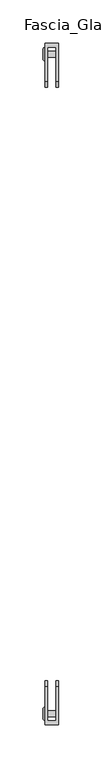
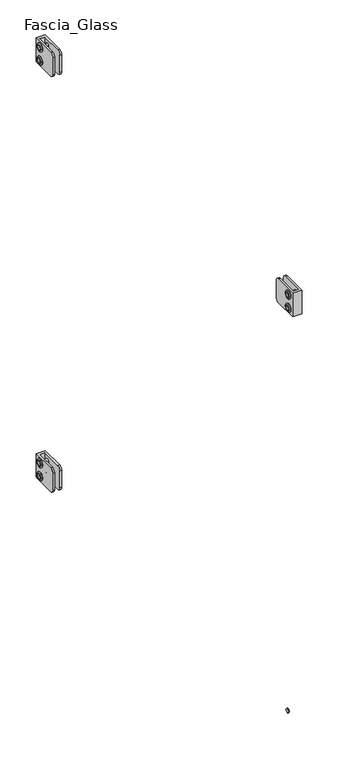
"""IFC4 building model written with IfcOpenShell, lengths in millimetres: railing geometry, Baluster-Excess-Fill-Straight-Panel-VIVA : Fascia_Glass."""

from ifc_helpers import new_model, si_unit, point, frame, origin, place, context, project, spatial, polyline, circle_curve, ellipse_curve, trimmed, outline, extrude, source, transform, mapped, element, save
from ifc_brep_helpers import plane_surface, cylinder_surface, revolved_surface, advanced_brep


def fascia_glass_776a08c6(model_context):
    return source(origin(), model_context, "Body", "SolidModel", [
        extrude(outline(polyline([(17.3185433, 917.178125), (15.2715791, 913.6326791), (11.1776508, 913.6326791), (9.1306867, 917.178125), (11.1776508, 920.7235709), (15.2715791, 920.7235709), (17.3185433, 917.178125)])), frame((21.7024185, 0.0, 0.0), z_axis=(1.0, 0.0, 0.0), x_axis=(0.0, 1.0, 0.0)), (0.0, 0.0, 1.0), 1.4969696),
        advanced_brep(
        [(36.7665, 16.7700609, 917.178125), (36.7665, 9.6791691, 917.178125), (24.0665, 9.6791691, 917.178125), (24.0665, 16.7700609, 917.178125), (24.0665, 5.8168259, 917.178125), (24.0665, 20.6324041, 917.178125), (23.199388, 14.8806904, 917.178125), (23.199388, 11.5685396, 917.178125), (36.7665, 11.5685396, 917.178125), (36.7665, 14.8806904, 917.178125), (23.2316551, 20.6324041, 917.178125), (23.2316551, 5.8168259, 917.178125), (21.9503831, 7.0980979, 917.178125), (21.9503831, 19.351132, 917.178125), (21.9503831, 8.9260194, 917.178125), (21.9503831, 17.5232105, 917.178125), (23.199388, 8.9260194, 917.178125), (23.199388, 17.5232105, 917.178125)],
        [
            (0, 1, circle_curve(frame((36.7665, 13.224615, 917.178125), z_axis=(-1.0, 0.0, 0.0), x_axis=(0.0, -1.0, 0.0)), 3.5454459)),
            (1, 2),
            (2, 3, circle_curve(frame((24.0665, 13.224615, 917.178125), z_axis=(1.0, 0.0, 0.0), x_axis=(0.0, -1.0, 0.0)), 3.5454459)),
            (3, 0),
            (1, 0, circle_curve(frame((36.7665, 13.224615, 917.178125), z_axis=(-1.0, 0.0, 0.0), x_axis=(0.0, -1.0, 0.0)), 3.5454459)),
            (3, 2, circle_curve(frame((24.0665, 13.224615, 917.178125), z_axis=(1.0, 0.0, 0.0), x_axis=(0.0, -1.0, 0.0)), 3.5454459)),
            (2, 4),
            (4, 5, circle_curve(frame((24.0665, 13.224615, 917.178125), z_axis=(1.0, 0.0, 0.0), x_axis=(0.0, -1.0, 0.0)), 7.4077891)),
            (5, 3),
            (5, 4, circle_curve(frame((24.0665, 13.224615, 917.178125), z_axis=(1.0, 0.0, 0.0), x_axis=(0.0, -1.0, 0.0)), 7.4077891)),
            (6, 7, circle_curve(frame((23.199388, 13.224615, 917.178125), z_axis=(-1.0, 0.0, 0.0), x_axis=(0.0, -1.0, 0.0)), 1.6560754)),
            (7, 8),
            (8, 9, circle_curve(frame((36.7665, 13.224615, 917.178125), z_axis=(1.0, 0.0, 0.0), x_axis=(0.0, -1.0, 0.0)), 1.6560754)),
            (9, 6),
            (7, 6, circle_curve(frame((23.199388, 13.224615, 917.178125), z_axis=(-1.0, 0.0, 0.0), x_axis=(0.0, -1.0, 0.0)), 1.6560754)),
            (9, 8, circle_curve(frame((36.7665, 13.224615, 917.178125), z_axis=(1.0, 0.0, 0.0), x_axis=(0.0, -1.0, 0.0)), 1.6560754)),
            (10, 11, circle_curve(frame((23.2316551, 13.224615, 917.178125), z_axis=(-1.0, 0.0, 0.0), x_axis=(0.0, -1.0, 0.0)), 7.4077891)),
            (11, 12, circle_curve(frame((23.2316551, 7.0980979, 917.178125), z_axis=(0.0, 0.0, -1.0), x_axis=(0.0, -1.0, 0.0)), 1.281272)),
            (12, 13, circle_curve(frame((21.9503831, 13.224615, 917.178125), z_axis=(1.0, 0.0, 0.0), x_axis=(0.0, -1.0, 0.0)), 6.1265171)),
            (13, 10, circle_curve(frame((23.2316551, 19.351132, 917.178125), z_axis=(0.0, 0.0, -1.0), x_axis=(0.0, 1.0, 0.0)), 1.281272)),
            (11, 10, circle_curve(frame((23.2316551, 13.224615, 917.178125), z_axis=(-1.0, 0.0, 0.0), x_axis=(0.0, -1.0, 0.0)), 7.4077891)),
            (13, 12, circle_curve(frame((21.9503831, 13.224615, 917.178125), z_axis=(1.0, 0.0, 0.0), x_axis=(0.0, -1.0, 0.0)), 6.1265171)),
            (12, 14),
            (14, 15, circle_curve(frame((21.9503831, 13.224615, 917.178125), z_axis=(1.0, 0.0, 0.0), x_axis=(0.0, -1.0, 0.0)), 4.2985955)),
            (15, 13),
            (15, 14, circle_curve(frame((21.9503831, 13.224615, 917.178125), z_axis=(1.0, 0.0, 0.0), x_axis=(0.0, -1.0, 0.0)), 4.2985955)),
            (4, 11),
            (10, 5),
            (8, 1),
            (0, 9),
            (14, 16),
            (16, 17, circle_curve(frame((23.199388, 13.224615, 917.178125), z_axis=(1.0, 0.0, 0.0), x_axis=(0.0, -1.0, 0.0)), 4.2985955)),
            (17, 15),
            (17, 16, circle_curve(frame((23.199388, 13.224615, 917.178125), z_axis=(1.0, 0.0, 0.0), x_axis=(0.0, -1.0, 0.0)), 4.2985955)),
            (16, 7),
            (6, 17),
        ],
        [
            cylinder_surface(frame((27.5632331, 13.224615, 917.178125), z_axis=(1.0, 0.0, 0.0), x_axis=(0.0, -1.0, 0.0)), 3.5454459),
            plane_surface(frame((24.0665, 13.224615, 917.178125), z_axis=(1.0, 0.0, 0.0), x_axis=(0.0, -1.0, 0.0))),
            revolved_surface(polyline([(36.7665, 11.5685396, 917.178125), (23.199388, 11.5685396, 917.178125)]), (27.5632331, 13.224615, 917.178125), (1.0, 0.0, 0.0)),
            revolved_surface(trimmed(ellipse_curve(frame((23.2316551, 7.0980979, 917.178125), z_axis=(0.0, 0.0, 1.0), x_axis=(0.0, -1.0, 0.0)), 1.281272, 1.281272), [point((21.9503831, 7.0980979, 917.178125))], [point((23.2316551, 5.8168259, 917.178125))], True, "CARTESIAN"), (27.5632331, 13.224615, 917.178125), (1.0, 0.0, 0.0)),
            plane_surface(frame((21.9503831, 13.224615, 917.178125), z_axis=(-1.0, 0.0, 0.0), x_axis=(0.0, -1.0, 0.0))),
            cylinder_surface(frame((27.5632331, 13.224615, 917.178125), z_axis=(1.0, 0.0, 0.0), x_axis=(0.0, -1.0, 0.0)), 7.4077891),
            plane_surface(frame((36.7665, 13.224615, 917.178125), z_axis=(1.0, 0.0, 0.0), x_axis=(0.0, -1.0, 0.0))),
            revolved_surface(polyline([(23.199388, 8.926019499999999, 917.178125), (21.9503831, 8.926019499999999, 917.178125)]), (27.5632331, 13.224615, 917.178125), (1.0, 0.0, 0.0)),
            plane_surface(frame((23.199388, 13.224615, 917.178125), z_axis=(-1.0, 0.0, 0.0), x_axis=(0.0, -1.0, 0.0))),
        ],
        [
            (0, [[1, 2, 3, 4]]),
            (0, [[5, -4, 6, -2]]),
            (1, [[-3, 7, 8, 9]]),
            (1, [[-6, -9, 10, -7]]),
            (2, [[11, 12, 13, 14]]),
            (2, [[15, -14, 16, -12]]),
            (3, [[17, 18, 19, 20]]),
            (3, [[21, -20, 22, -18]]),
            (4, [[-19, 23, 24, 25]]),
            (4, [[-22, -25, 26, -23]]),
            (5, [[-8, 27, -17, 28]]),
            (5, [[-10, -28, -21, -27]]),
            (6, [[-13, 29, -1, 30]]),
            (6, [[-16, -30, -5, -29]]),
            (7, [[-24, 31, 32, 33]]),
            (7, [[-26, -33, 34, -31]]),
            (8, [[-32, 35, -11, 36]]),
            (8, [[-34, -36, -15, -35]]),
        ],
    ),
        advanced_brep(
        [(36.7665, 16.7700609, 892.571875), (36.7665, 9.6791691, 892.571875), (24.0665, 9.6791691, 892.571875), (24.0665, 16.7700609, 892.571875), (24.0665, 5.8168259, 892.571875), (24.0665, 20.6324041, 892.571875), (23.199388, 14.8806904, 892.571875), (23.199388, 11.5685396, 892.571875), (36.7665, 11.5685396, 892.571875), (36.7665, 14.8806904, 892.571875), (23.2316551, 20.6324041, 892.571875), (23.2316551, 5.8168259, 892.571875), (21.9503831, 7.0980979, 892.571875), (21.9503831, 19.351132, 892.571875), (21.9503831, 8.9260194, 892.571875), (21.9503831, 17.5232105, 892.571875), (23.199388, 8.9260194, 892.571875), (23.199388, 17.5232105, 892.571875)],
        [
            (0, 1, circle_curve(frame((36.7665, 13.224615, 892.571875), z_axis=(-1.0, 0.0, 0.0), x_axis=(0.0, -1.0, 0.0)), 3.5454459)),
            (1, 2),
            (2, 3, circle_curve(frame((24.0665, 13.224615, 892.571875), z_axis=(1.0, 0.0, 0.0), x_axis=(0.0, -1.0, 0.0)), 3.5454459)),
            (3, 0),
            (1, 0, circle_curve(frame((36.7665, 13.224615, 892.571875), z_axis=(-1.0, 0.0, 0.0), x_axis=(0.0, -1.0, 0.0)), 3.5454459)),
            (3, 2, circle_curve(frame((24.0665, 13.224615, 892.571875), z_axis=(1.0, 0.0, 0.0), x_axis=(0.0, -1.0, 0.0)), 3.5454459)),
            (2, 4),
            (4, 5, circle_curve(frame((24.0665, 13.224615, 892.571875), z_axis=(1.0, 0.0, 0.0), x_axis=(0.0, -1.0, 0.0)), 7.4077891)),
            (5, 3),
            (5, 4, circle_curve(frame((24.0665, 13.224615, 892.571875), z_axis=(1.0, 0.0, 0.0), x_axis=(0.0, -1.0, 0.0)), 7.4077891)),
            (6, 7, circle_curve(frame((23.199388, 13.224615, 892.571875), z_axis=(-1.0, 0.0, 0.0), x_axis=(0.0, -1.0, 0.0)), 1.6560754)),
            (7, 8),
            (8, 9, circle_curve(frame((36.7665, 13.224615, 892.571875), z_axis=(1.0, 0.0, 0.0), x_axis=(0.0, -1.0, 0.0)), 1.6560754)),
            (9, 6),
            (7, 6, circle_curve(frame((23.199388, 13.224615, 892.571875), z_axis=(-1.0, 0.0, 0.0), x_axis=(0.0, -1.0, 0.0)), 1.6560754)),
            (9, 8, circle_curve(frame((36.7665, 13.224615, 892.571875), z_axis=(1.0, 0.0, 0.0), x_axis=(0.0, -1.0, 0.0)), 1.6560754)),
            (10, 11, circle_curve(frame((23.2316551, 13.224615, 892.571875), z_axis=(-1.0, 0.0, 0.0), x_axis=(0.0, -1.0, 0.0)), 7.4077891)),
            (11, 12, circle_curve(frame((23.2316551, 7.0980979, 892.571875), z_axis=(0.0, 0.0, -1.0), x_axis=(0.0, -1.0, 0.0)), 1.281272)),
            (12, 13, circle_curve(frame((21.9503831, 13.224615, 892.571875), z_axis=(1.0, 0.0, 0.0), x_axis=(0.0, -1.0, 0.0)), 6.1265171)),
            (13, 10, circle_curve(frame((23.2316551, 19.351132, 892.571875), z_axis=(0.0, 0.0, -1.0), x_axis=(0.0, 1.0, 0.0)), 1.281272)),
            (11, 10, circle_curve(frame((23.2316551, 13.224615, 892.571875), z_axis=(-1.0, 0.0, 0.0), x_axis=(0.0, -1.0, 0.0)), 7.4077891)),
            (13, 12, circle_curve(frame((21.9503831, 13.224615, 892.571875), z_axis=(1.0, 0.0, 0.0), x_axis=(0.0, -1.0, 0.0)), 6.1265171)),
            (12, 14),
            (14, 15, circle_curve(frame((21.9503831, 13.224615, 892.571875), z_axis=(1.0, 0.0, 0.0), x_axis=(0.0, -1.0, 0.0)), 4.2985955)),
            (15, 13),
            (15, 14, circle_curve(frame((21.9503831, 13.224615, 892.571875), z_axis=(1.0, 0.0, 0.0), x_axis=(0.0, -1.0, 0.0)), 4.2985955)),
            (8, 1),
            (0, 9),
            (4, 11),
            (10, 5),
            (14, 16),
            (16, 17, circle_curve(frame((23.199388, 13.224615, 892.571875), z_axis=(1.0, 0.0, 0.0), x_axis=(0.0, -1.0, 0.0)), 4.2985955)),
            (17, 15),
            (17, 16, circle_curve(frame((23.199388, 13.224615, 892.571875), z_axis=(1.0, 0.0, 0.0), x_axis=(0.0, -1.0, 0.0)), 4.2985955)),
            (16, 7),
            (6, 17),
        ],
        [
            cylinder_surface(frame((27.5632331, 13.224615, 892.571875), z_axis=(1.0, 0.0, 0.0), x_axis=(0.0, -1.0, 0.0)), 3.5454459),
            plane_surface(frame((24.0665, 13.224615, 892.571875), z_axis=(1.0, 0.0, 0.0), x_axis=(0.0, -1.0, 0.0))),
            revolved_surface(polyline([(36.7665, 11.5685396, 892.571875), (23.199388, 11.5685396, 892.571875)]), (27.5632331, 13.224615, 892.571875), (1.0, 0.0, 0.0)),
            revolved_surface(trimmed(ellipse_curve(frame((23.2316551, 7.0980979, 892.571875), z_axis=(0.0, 0.0, 1.0), x_axis=(0.0, -1.0, 0.0)), 1.281272, 1.281272), [point((21.9503831, 7.0980979, 892.571875))], [point((23.2316551, 5.8168259, 892.571875))], True, "CARTESIAN"), (27.5632331, 13.224615, 892.571875), (1.0, 0.0, 0.0)),
            plane_surface(frame((21.9503831, 13.224615, 892.571875), z_axis=(-1.0, 0.0, 0.0), x_axis=(0.0, -1.0, 0.0))),
            plane_surface(frame((36.7665, 13.224615, 892.571875), z_axis=(1.0, 0.0, 0.0), x_axis=(0.0, -1.0, 0.0))),
            cylinder_surface(frame((27.5632331, 13.224615, 892.571875), z_axis=(1.0, 0.0, 0.0), x_axis=(0.0, -1.0, 0.0)), 7.4077891),
            revolved_surface(polyline([(23.199388, 8.926019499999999, 892.571875), (21.9503831, 8.926019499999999, 892.571875)]), (27.5632331, 13.224615, 892.571875), (1.0, 0.0, 0.0)),
            plane_surface(frame((23.199388, 13.224615, 892.571875), z_axis=(-1.0, 0.0, 0.0), x_axis=(0.0, -1.0, 0.0))),
        ],
        [
            (0, [[1, 2, 3, 4]]),
            (0, [[5, -4, 6, -2]]),
            (1, [[-3, 7, 8, 9]]),
            (1, [[-6, -9, 10, -7]]),
            (2, [[11, 12, 13, 14]]),
            (2, [[15, -14, 16, -12]]),
            (3, [[17, 18, 19, 20]]),
            (3, [[21, -20, 22, -18]]),
            (4, [[-19, 23, 24, 25]]),
            (4, [[-22, -25, 26, -23]]),
            (5, [[-13, 27, -1, 28]]),
            (5, [[-16, -28, -5, -27]]),
            (6, [[-8, 29, -17, 30]]),
            (6, [[-10, -30, -21, -29]]),
            (7, [[-24, 31, 32, 33]]),
            (7, [[-26, -33, 34, -31]]),
            (8, [[-32, 35, -11, 36]]),
            (8, [[-34, -36, -15, -35]]),
        ],
    ),
        extrude(outline(polyline([(17.3185433, 892.571875), (15.2715791, 889.0264291), (11.1776508, 889.0264291), (9.1306867, 892.571875), (11.1776508, 896.1173209), (15.2715791, 896.1173209), (17.3185433, 892.571875)])), frame((21.7024185, 0.0, 0.0), z_axis=(1.0, 0.0, 0.0), x_axis=(0.0, 1.0, 0.0)), (0.0, 0.0, 1.0), 1.4969696),
        advanced_brep(
        [(24.0665, 25.8579597, 927.1), (24.0665, 25.8579597, 882.65), (24.0665, -18.5920403, 882.65), (24.0665, -24.9420403, 889.0), (24.0665, -24.9420403, 920.75), (24.0665, -18.5920403, 927.1), (39.9415, 25.8579597, 927.1), (39.9415, -18.5920403, 927.1), (39.9415, -24.9420403, 920.75), (39.9415, -24.9420403, 889.0), (39.9415, -18.5920403, 882.65), (39.9415, 25.8579597, 882.65), (36.7665, -18.5920403, 882.65), (36.7665, 21.1398793, 882.65), (27.2415, 21.1398793, 882.65), (27.2415, -18.5920403, 882.65), (36.7665, 21.1398793, 927.1), (27.2415, 21.1398793, 927.1), (27.2415, -18.5920403, 927.1), (27.2415, -24.9420403, 920.75), (27.2415, -24.9420403, 889.0), (36.7665, -24.9420403, 889.0), (36.7665, -24.9420403, 920.75), (36.7665, -18.5920403, 927.1)],
        [
            (0, 1),
            (1, 2),
            (2, 3, circle_curve(frame((24.0665, -18.5920403, 889.0), z_axis=(-1.0, 0.0, 0.0), x_axis=(0.0, -1.0, 0.0)), 6.35)),
            (3, 4),
            (4, 5, circle_curve(frame((24.0665, -18.5920403, 920.75), z_axis=(-1.0, 0.0, 0.0), x_axis=(0.0, -1.0, 0.0)), 6.35)),
            (5, 0),
            (6, 7),
            (7, 8, circle_curve(frame((39.9415, -18.5920403, 920.75), z_axis=(1.0, 0.0, 0.0), x_axis=(0.0, -1.0, 0.0)), 6.35)),
            (8, 9),
            (9, 10, circle_curve(frame((39.9415, -18.5920403, 889.0), z_axis=(1.0, 0.0, 0.0), x_axis=(0.0, -1.0, 0.0)), 6.35)),
            (10, 11),
            (11, 6),
            (0, 6),
            (11, 1),
            (10, 12),
            (12, 13),
            (13, 14),
            (14, 15),
            (15, 2),
            (13, 16),
            (16, 17),
            (17, 14),
            (17, 18),
            (18, 19, circle_curve(frame((27.2415, -18.5920403, 920.75), z_axis=(1.0, 0.0, 0.0), x_axis=(0.0, -1.0, 0.0)), 6.35)),
            (19, 20),
            (20, 15, circle_curve(frame((27.2415, -18.5920403, 889.0), z_axis=(1.0, 0.0, 0.0), x_axis=(0.0, -1.0, 0.0)), 6.35)),
            (12, 21, circle_curve(frame((36.7665, -18.5920403, 889.0), z_axis=(-1.0, 0.0, 0.0), x_axis=(0.0, -1.0, 0.0)), 6.35)),
            (21, 22),
            (22, 23, circle_curve(frame((36.7665, -18.5920403, 920.75), z_axis=(-1.0, 0.0, 0.0), x_axis=(0.0, -1.0, 0.0)), 6.35)),
            (23, 16),
            (20, 3),
            (9, 21),
            (19, 4),
            (8, 22),
            (18, 5),
            (7, 23),
        ],
        [
            plane_surface(frame((24.0665, 25.8579597, 882.65), z_axis=(-1.0, 0.0, 0.0), x_axis=(0.0, 0.0, -1.0))),
            plane_surface(frame((39.9415, 25.8579597, 882.65), z_axis=(1.0, 0.0, 0.0), x_axis=(0.0, 0.0, 1.0))),
            plane_surface(frame((24.0665, 25.8579597, 927.1), z_axis=(0.0, 1.0, 0.0), x_axis=(1.0, 0.0, 0.0))),
            plane_surface(frame((24.0665, 25.8579597, 882.65), z_axis=(0.0, 0.0, -1.0), x_axis=(1.0, 0.0, 0.0))),
            plane_surface(frame((36.7665, 21.1398793, 939.8), z_axis=(0.0, -1.0, 0.0), x_axis=(0.0, 0.0, -1.0))),
            plane_surface(frame((27.2415, 21.1398793, 939.8), z_axis=(1.0, 0.0, 0.0), x_axis=(0.0, 0.0, -1.0))),
            plane_surface(frame((36.7665, -37.6420403, 939.8), z_axis=(-1.0, 0.0, 0.0), x_axis=(0.0, 0.0, -1.0))),
            cylinder_surface(frame((39.9415, -18.5920403, 889.0), z_axis=(-1.0, 0.0, 0.0), x_axis=(0.0, -1.0, 0.0)), 6.35),
            plane_surface(frame((24.0665, -24.9420403, 889.0), z_axis=(0.0, -1.0, 0.0), x_axis=(1.0, 0.0, 0.0))),
            cylinder_surface(frame((39.9415, -18.5920403, 920.75), z_axis=(-1.0, 0.0, 0.0), x_axis=(0.0, -1.0, 0.0)), 6.35),
            plane_surface(frame((24.0665, -18.5920403, 927.1), z_axis=(0.0, 0.0, 1.0), x_axis=(1.0, 0.0, 0.0))),
        ],
        [
            (0, [[1, 2, 3, 4, 5, 6]]),
            (1, [[7, 8, 9, 10, 11, 12]]),
            (2, [[-1, 13, -12, 14]]),
            (3, [[-2, -14, -11, 15, 16, 17, 18, 19]]),
            (4, [[20, 21, 22, -17]]),
            (5, [[-22, 23, 24, 25, 26, -18]]),
            (6, [[-20, -16, 27, 28, 29, 30]]),
            (7, [[-3, -19, -26, 31]]),
            (7, [[-10, 32, -27, -15]]),
            (8, [[-4, -31, -25, 33]]),
            (8, [[-9, 34, -28, -32]]),
            (9, [[-5, -33, -24, 35]]),
            (9, [[-8, 36, -29, -34]]),
            (10, [[-6, -35, -23, -21, -30, -36, -7, -13]]),
        ],
    ),
        extrude(outline(polyline([(17.3185433, 138.7358896), (15.2715791, 135.1904437), (11.1776508, 135.1904437), (9.1306867, 138.7358896), (11.1776508, 142.2813355), (15.2715791, 142.2813355), (17.3185433, 138.7358896)])), frame((21.7024185, 0.0, 0.0), z_axis=(1.0, 0.0, 0.0), x_axis=(0.0, 1.0, 0.0)), (0.0, 0.0, 1.0), 1.4969696),
        advanced_brep(
        [(36.7665, 16.7700609, 138.7358896), (36.7665, 9.6791691, 138.7358896), (24.0665, 9.6791691, 138.7358896), (24.0665, 16.7700609, 138.7358896), (24.0665, 5.8168259, 138.7358896), (24.0665, 20.6324041, 138.7358896), (23.199388, 14.8806904, 138.7358896), (23.199388, 11.5685396, 138.7358896), (36.7665, 11.5685396, 138.7358896), (36.7665, 14.8806904, 138.7358896), (23.2316551, 20.6324041, 138.7358896), (23.2316551, 5.8168259, 138.7358896), (21.9503831, 7.0980979, 138.7358896), (21.9503831, 19.351132, 138.7358896), (21.9503831, 8.9260194, 138.7358896), (21.9503831, 17.5232105, 138.7358896), (23.199388, 8.9260194, 138.7358896), (23.199388, 17.5232105, 138.7358896)],
        [
            (0, 1, circle_curve(frame((36.7665, 13.224615, 138.7358896), z_axis=(-1.0, 0.0, 0.0), x_axis=(0.0, -1.0, 0.0)), 3.5454459)),
            (1, 2),
            (2, 3, circle_curve(frame((24.0665, 13.224615, 138.7358896), z_axis=(1.0, 0.0, 0.0), x_axis=(0.0, -1.0, 0.0)), 3.5454459)),
            (3, 0),
            (1, 0, circle_curve(frame((36.7665, 13.224615, 138.7358896), z_axis=(-1.0, 0.0, 0.0), x_axis=(0.0, -1.0, 0.0)), 3.5454459)),
            (3, 2, circle_curve(frame((24.0665, 13.224615, 138.7358896), z_axis=(1.0, 0.0, 0.0), x_axis=(0.0, -1.0, 0.0)), 3.5454459)),
            (2, 4),
            (4, 5, circle_curve(frame((24.0665, 13.224615, 138.7358896), z_axis=(1.0, 0.0, 0.0), x_axis=(0.0, -1.0, 0.0)), 7.4077891)),
            (5, 3),
            (5, 4, circle_curve(frame((24.0665, 13.224615, 138.7358896), z_axis=(1.0, 0.0, 0.0), x_axis=(0.0, -1.0, 0.0)), 7.4077891)),
            (6, 7, circle_curve(frame((23.199388, 13.224615, 138.7358896), z_axis=(-1.0, 0.0, 0.0), x_axis=(0.0, -1.0, 0.0)), 1.6560754)),
            (7, 8),
            (8, 9, circle_curve(frame((36.7665, 13.224615, 138.7358896), z_axis=(1.0, 0.0, 0.0), x_axis=(0.0, -1.0, 0.0)), 1.6560754)),
            (9, 6),
            (7, 6, circle_curve(frame((23.199388, 13.224615, 138.7358896), z_axis=(-1.0, 0.0, 0.0), x_axis=(0.0, -1.0, 0.0)), 1.6560754)),
            (9, 8, circle_curve(frame((36.7665, 13.224615, 138.7358896), z_axis=(1.0, 0.0, 0.0), x_axis=(0.0, -1.0, 0.0)), 1.6560754)),
            (10, 11, circle_curve(frame((23.2316551, 13.224615, 138.7358896), z_axis=(-1.0, 0.0, 0.0), x_axis=(0.0, -1.0, 0.0)), 7.4077891)),
            (11, 12, circle_curve(frame((23.2316551, 7.0980979, 138.7358896), z_axis=(0.0, 0.0, -1.0), x_axis=(0.0, -1.0, 0.0)), 1.281272)),
            (12, 13, circle_curve(frame((21.9503831, 13.224615, 138.7358896), z_axis=(1.0, 0.0, 0.0), x_axis=(0.0, -1.0, 0.0)), 6.1265171)),
            (13, 10, circle_curve(frame((23.2316551, 19.351132, 138.7358896), z_axis=(0.0, 0.0, -1.0), x_axis=(0.0, 1.0, 0.0)), 1.281272)),
            (11, 10, circle_curve(frame((23.2316551, 13.224615, 138.7358896), z_axis=(-1.0, 0.0, 0.0), x_axis=(0.0, -1.0, 0.0)), 7.4077891)),
            (13, 12, circle_curve(frame((21.9503831, 13.224615, 138.7358896), z_axis=(1.0, 0.0, 0.0), x_axis=(0.0, -1.0, 0.0)), 6.1265171)),
            (12, 14),
            (14, 15, circle_curve(frame((21.9503831, 13.224615, 138.7358896), z_axis=(1.0, 0.0, 0.0), x_axis=(0.0, -1.0, 0.0)), 4.2985955)),
            (15, 13),
            (15, 14, circle_curve(frame((21.9503831, 13.224615, 138.7358896), z_axis=(1.0, 0.0, 0.0), x_axis=(0.0, -1.0, 0.0)), 4.2985955)),
            (4, 11),
            (10, 5),
            (8, 1),
            (0, 9),
            (14, 16),
            (16, 17, circle_curve(frame((23.199388, 13.224615, 138.7358896), z_axis=(1.0, 0.0, 0.0), x_axis=(0.0, -1.0, 0.0)), 4.2985955)),
            (17, 15),
            (17, 16, circle_curve(frame((23.199388, 13.224615, 138.7358896), z_axis=(1.0, 0.0, 0.0), x_axis=(0.0, -1.0, 0.0)), 4.2985955)),
            (16, 7),
            (6, 17),
        ],
        [
            cylinder_surface(frame((27.5632331, 13.224615, 138.7358896), z_axis=(1.0, 0.0, 0.0), x_axis=(0.0, -1.0, 0.0)), 3.5454459),
            plane_surface(frame((24.0665, 13.224615, 138.7358896), z_axis=(1.0, 0.0, 0.0), x_axis=(0.0, -1.0, 0.0))),
            revolved_surface(polyline([(36.7665, 11.5685396, 138.7358896), (23.199388, 11.5685396, 138.7358896)]), (27.5632331, 13.224615, 138.7358896), (1.0, 0.0, 0.0)),
            revolved_surface(trimmed(ellipse_curve(frame((23.2316551, 7.0980979, 138.7358896), z_axis=(0.0, 0.0, 1.0), x_axis=(0.0, -1.0, 0.0)), 1.281272, 1.281272), [point((21.9503831, 7.0980979, 138.7358896))], [point((23.2316551, 5.8168259, 138.7358896))], True, "CARTESIAN"), (27.5632331, 13.224615, 138.7358896), (1.0, 0.0, 0.0)),
            plane_surface(frame((21.9503831, 13.224615, 138.7358896), z_axis=(-1.0, 0.0, 0.0), x_axis=(0.0, -1.0, 0.0))),
            cylinder_surface(frame((27.5632331, 13.224615, 138.7358896), z_axis=(1.0, 0.0, 0.0), x_axis=(0.0, -1.0, 0.0)), 7.4077891),
            plane_surface(frame((36.7665, 13.224615, 138.7358896), z_axis=(1.0, 0.0, 0.0), x_axis=(0.0, -1.0, 0.0))),
            revolved_surface(polyline([(23.199388, 8.926019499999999, 138.7358896), (21.9503831, 8.926019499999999, 138.7358896)]), (27.5632331, 13.224615, 138.7358896), (1.0, 0.0, 0.0)),
            plane_surface(frame((23.199388, 13.224615, 138.7358896), z_axis=(-1.0, 0.0, 0.0), x_axis=(0.0, -1.0, 0.0))),
        ],
        [
            (0, [[1, 2, 3, 4]]),
            (0, [[5, -4, 6, -2]]),
            (1, [[-3, 7, 8, 9]]),
            (1, [[-6, -9, 10, -7]]),
            (2, [[11, 12, 13, 14]]),
            (2, [[15, -14, 16, -12]]),
            (3, [[17, 18, 19, 20]]),
            (3, [[21, -20, 22, -18]]),
            (4, [[-19, 23, 24, 25]]),
            (4, [[-22, -25, 26, -23]]),
            (5, [[-8, 27, -17, 28]]),
            (5, [[-10, -28, -21, -27]]),
            (6, [[-13, 29, -1, 30]]),
            (6, [[-16, -30, -5, -29]]),
            (7, [[-24, 31, 32, 33]]),
            (7, [[-26, -33, 34, -31]]),
            (8, [[-32, 35, -11, 36]]),
            (8, [[-34, -36, -15, -35]]),
        ],
    ),
        advanced_brep(
        [(36.7665, 16.7700609, 114.1296396), (36.7665, 9.6791691, 114.1296396), (24.0665, 9.6791691, 114.1296396), (24.0665, 16.7700609, 114.1296396), (24.0665, 5.8168259, 114.1296396), (24.0665, 20.6324041, 114.1296396), (23.199388, 14.8806904, 114.1296396), (23.199388, 11.5685396, 114.1296396), (36.7665, 11.5685396, 114.1296396), (36.7665, 14.8806904, 114.1296396), (23.2316551, 20.6324041, 114.1296396), (23.2316551, 5.8168259, 114.1296396), (21.9503831, 7.0980979, 114.1296396), (21.9503831, 19.351132, 114.1296396), (21.9503831, 8.9260194, 114.1296396), (21.9503831, 17.5232105, 114.1296396), (23.199388, 8.9260194, 114.1296396), (23.199388, 17.5232105, 114.1296396)],
        [
            (0, 1, circle_curve(frame((36.7665, 13.224615, 114.1296396), z_axis=(-1.0, 0.0, 0.0), x_axis=(0.0, -1.0, 0.0)), 3.5454459)),
            (1, 2),
            (2, 3, circle_curve(frame((24.0665, 13.224615, 114.1296396), z_axis=(1.0, 0.0, 0.0), x_axis=(0.0, -1.0, 0.0)), 3.5454459)),
            (3, 0),
            (1, 0, circle_curve(frame((36.7665, 13.224615, 114.1296396), z_axis=(-1.0, 0.0, 0.0), x_axis=(0.0, -1.0, 0.0)), 3.5454459)),
            (3, 2, circle_curve(frame((24.0665, 13.224615, 114.1296396), z_axis=(1.0, 0.0, 0.0), x_axis=(0.0, -1.0, 0.0)), 3.5454459)),
            (2, 4),
            (4, 5, circle_curve(frame((24.0665, 13.224615, 114.1296396), z_axis=(1.0, 0.0, 0.0), x_axis=(0.0, -1.0, 0.0)), 7.4077891)),
            (5, 3),
            (5, 4, circle_curve(frame((24.0665, 13.224615, 114.1296396), z_axis=(1.0, 0.0, 0.0), x_axis=(0.0, -1.0, 0.0)), 7.4077891)),
            (6, 7, circle_curve(frame((23.199388, 13.224615, 114.1296396), z_axis=(-1.0, 0.0, 0.0), x_axis=(0.0, -1.0, 0.0)), 1.6560754)),
            (7, 8),
            (8, 9, circle_curve(frame((36.7665, 13.224615, 114.1296396), z_axis=(1.0, 0.0, 0.0), x_axis=(0.0, -1.0, 0.0)), 1.6560754)),
            (9, 6),
            (7, 6, circle_curve(frame((23.199388, 13.224615, 114.1296396), z_axis=(-1.0, 0.0, 0.0), x_axis=(0.0, -1.0, 0.0)), 1.6560754)),
            (9, 8, circle_curve(frame((36.7665, 13.224615, 114.1296396), z_axis=(1.0, 0.0, 0.0), x_axis=(0.0, -1.0, 0.0)), 1.6560754)),
            (10, 11, circle_curve(frame((23.2316551, 13.224615, 114.1296396), z_axis=(-1.0, 0.0, 0.0), x_axis=(0.0, -1.0, 0.0)), 7.4077891)),
            (11, 12, circle_curve(frame((23.2316551, 7.0980979, 114.1296396), z_axis=(0.0, 0.0, -1.0), x_axis=(0.0, -1.0, 0.0)), 1.281272)),
            (12, 13, circle_curve(frame((21.9503831, 13.224615, 114.1296396), z_axis=(1.0, 0.0, 0.0), x_axis=(0.0, -1.0, 0.0)), 6.1265171)),
            (13, 10, circle_curve(frame((23.2316551, 19.351132, 114.1296396), z_axis=(0.0, 0.0, -1.0), x_axis=(0.0, 1.0, 0.0)), 1.281272)),
            (11, 10, circle_curve(frame((23.2316551, 13.224615, 114.1296396), z_axis=(-1.0, 0.0, 0.0), x_axis=(0.0, -1.0, 0.0)), 7.4077891)),
            (13, 12, circle_curve(frame((21.9503831, 13.224615, 114.1296396), z_axis=(1.0, 0.0, 0.0), x_axis=(0.0, -1.0, 0.0)), 6.1265171)),
            (12, 14),
            (14, 15, circle_curve(frame((21.9503831, 13.224615, 114.1296396), z_axis=(1.0, 0.0, 0.0), x_axis=(0.0, -1.0, 0.0)), 4.2985955)),
            (15, 13),
            (15, 14, circle_curve(frame((21.9503831, 13.224615, 114.1296396), z_axis=(1.0, 0.0, 0.0), x_axis=(0.0, -1.0, 0.0)), 4.2985955)),
            (8, 1),
            (0, 9),
            (4, 11),
            (10, 5),
            (14, 16),
            (16, 17, circle_curve(frame((23.199388, 13.224615, 114.1296396), z_axis=(1.0, 0.0, 0.0), x_axis=(0.0, -1.0, 0.0)), 4.2985955)),
            (17, 15),
            (17, 16, circle_curve(frame((23.199388, 13.224615, 114.1296396), z_axis=(1.0, 0.0, 0.0), x_axis=(0.0, -1.0, 0.0)), 4.2985955)),
            (16, 7),
            (6, 17),
        ],
        [
            cylinder_surface(frame((27.5632331, 13.224615, 114.1296396), z_axis=(1.0, 0.0, 0.0), x_axis=(0.0, -1.0, 0.0)), 3.5454459),
            plane_surface(frame((24.0665, 13.224615, 114.1296396), z_axis=(1.0, 0.0, 0.0), x_axis=(0.0, -1.0, 0.0))),
            revolved_surface(polyline([(36.7665, 11.5685396, 114.1296396), (23.199388, 11.5685396, 114.1296396)]), (27.5632331, 13.224615, 114.1296396), (1.0, 0.0, 0.0)),
            revolved_surface(trimmed(ellipse_curve(frame((23.2316551, 7.0980979, 114.1296396), z_axis=(0.0, 0.0, 1.0), x_axis=(0.0, -1.0, 0.0)), 1.281272, 1.281272), [point((21.9503831, 7.0980979, 114.1296396))], [point((23.2316551, 5.8168259, 114.1296396))], True, "CARTESIAN"), (27.5632331, 13.224615, 114.1296396), (1.0, 0.0, 0.0)),
            plane_surface(frame((21.9503831, 13.224615, 114.1296396), z_axis=(-1.0, 0.0, 0.0), x_axis=(0.0, -1.0, 0.0))),
            plane_surface(frame((36.7665, 13.224615, 114.1296396), z_axis=(1.0, 0.0, 0.0), x_axis=(0.0, -1.0, 0.0))),
            cylinder_surface(frame((27.5632331, 13.224615, 114.1296396), z_axis=(1.0, 0.0, 0.0), x_axis=(0.0, -1.0, 0.0)), 7.4077891),
            revolved_surface(polyline([(23.199388, 8.926019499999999, 114.1296396), (21.9503831, 8.926019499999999, 114.1296396)]), (27.5632331, 13.224615, 114.1296396), (1.0, 0.0, 0.0)),
            plane_surface(frame((23.199388, 13.224615, 114.1296396), z_axis=(-1.0, 0.0, 0.0), x_axis=(0.0, -1.0, 0.0))),
        ],
        [
            (0, [[1, 2, 3, 4]]),
            (0, [[5, -4, 6, -2]]),
            (1, [[-3, 7, 8, 9]]),
            (1, [[-6, -9, 10, -7]]),
            (2, [[11, 12, 13, 14]]),
            (2, [[15, -14, 16, -12]]),
            (3, [[17, 18, 19, 20]]),
            (3, [[21, -20, 22, -18]]),
            (4, [[-19, 23, 24, 25]]),
            (4, [[-22, -25, 26, -23]]),
            (5, [[-13, 27, -1, 28]]),
            (5, [[-16, -28, -5, -27]]),
            (6, [[-8, 29, -17, 30]]),
            (6, [[-10, -30, -21, -29]]),
            (7, [[-24, 31, 32, 33]]),
            (7, [[-26, -33, 34, -31]]),
            (8, [[-32, 35, -11, 36]]),
            (8, [[-34, -36, -15, -35]]),
        ],
    ),
        extrude(outline(polyline([(17.3185433, 114.1296396), (15.2715791, 110.5841937), (11.1776508, 110.5841937), (9.1306867, 114.1296396), (11.1776508, 117.6750855), (15.2715791, 117.6750855), (17.3185433, 114.1296396)])), frame((21.7024185, 0.0, 0.0), z_axis=(1.0, 0.0, 0.0), x_axis=(0.0, 1.0, 0.0)), (0.0, 0.0, 1.0), 1.4969696),
        advanced_brep(
        [(24.0665, 25.8579597, 148.6577646), (24.0665, 25.8579597, 104.2077646), (24.0665, -18.5920403, 104.2077646), (24.0665, -24.9420403, 110.5577646), (24.0665, -24.9420403, 142.3077646), (24.0665, -18.5920403, 148.6577646), (39.9415, 25.8579597, 148.6577646), (39.9415, -18.5920403, 148.6577646), (39.9415, -24.9420403, 142.3077646), (39.9415, -24.9420403, 110.5577646), (39.9415, -18.5920403, 104.2077646), (39.9415, 25.8579597, 104.2077646), (36.7665, -18.5920403, 104.2077646), (36.7665, 21.1398793, 104.2077646), (27.2415, 21.1398793, 104.2077646), (27.2415, -18.5920403, 104.2077646), (36.7665, 21.1398793, 148.6577646), (27.2415, 21.1398793, 148.6577646), (27.2415, -18.5920403, 148.6577646), (27.2415, -24.9420403, 142.3077646), (27.2415, -24.9420403, 110.5577646), (36.7665, -24.9420403, 110.5577646), (36.7665, -24.9420403, 142.3077646), (36.7665, -18.5920403, 148.6577646)],
        [
            (0, 1),
            (1, 2),
            (2, 3, circle_curve(frame((24.0665, -18.5920403, 110.5577646), z_axis=(-1.0, 0.0, 0.0), x_axis=(0.0, -1.0, 0.0)), 6.35)),
            (3, 4),
            (4, 5, circle_curve(frame((24.0665, -18.5920403, 142.3077646), z_axis=(-1.0, 0.0, 0.0), x_axis=(0.0, -1.0, 0.0)), 6.35)),
            (5, 0),
            (6, 7),
            (7, 8, circle_curve(frame((39.9415, -18.5920403, 142.3077646), z_axis=(1.0, 0.0, 0.0), x_axis=(0.0, -1.0, 0.0)), 6.35)),
            (8, 9),
            (9, 10, circle_curve(frame((39.9415, -18.5920403, 110.5577646), z_axis=(1.0, 0.0, 0.0), x_axis=(0.0, -1.0, 0.0)), 6.35)),
            (10, 11),
            (11, 6),
            (0, 6),
            (11, 1),
            (10, 12),
            (12, 13),
            (13, 14),
            (14, 15),
            (15, 2),
            (13, 16),
            (16, 17),
            (17, 14),
            (17, 18),
            (18, 19, circle_curve(frame((27.2415, -18.5920403, 142.3077646), z_axis=(1.0, 0.0, 0.0), x_axis=(0.0, -1.0, 0.0)), 6.35)),
            (19, 20),
            (20, 15, circle_curve(frame((27.2415, -18.5920403, 110.5577646), z_axis=(1.0, 0.0, 0.0), x_axis=(0.0, -1.0, 0.0)), 6.35)),
            (12, 21, circle_curve(frame((36.7665, -18.5920403, 110.5577646), z_axis=(-1.0, 0.0, 0.0), x_axis=(0.0, -1.0, 0.0)), 6.35)),
            (21, 22),
            (22, 23, circle_curve(frame((36.7665, -18.5920403, 142.3077646), z_axis=(-1.0, 0.0, 0.0), x_axis=(0.0, -1.0, 0.0)), 6.35)),
            (23, 16),
            (20, 3),
            (9, 21),
            (19, 4),
            (8, 22),
            (18, 5),
            (7, 23),
        ],
        [
            plane_surface(frame((24.0665, 25.8579597, 104.2077646), z_axis=(-1.0, 0.0, 0.0), x_axis=(0.0, 0.0, -1.0))),
            plane_surface(frame((39.9415, 25.8579597, 104.2077646), z_axis=(1.0, 0.0, 0.0), x_axis=(0.0, 0.0, 1.0))),
            plane_surface(frame((24.0665, 25.8579597, 148.6577646), z_axis=(0.0, 1.0, 0.0), x_axis=(1.0, 0.0, 0.0))),
            plane_surface(frame((24.0665, 25.8579597, 104.2077646), z_axis=(0.0, 0.0, -1.0), x_axis=(1.0, 0.0, 0.0))),
            plane_surface(frame((36.7665, 21.1398793, 161.3577646), z_axis=(0.0, -1.0, 0.0), x_axis=(0.0, 0.0, -1.0))),
            plane_surface(frame((27.2415, 21.1398793, 161.3577646), z_axis=(1.0, 0.0, 0.0), x_axis=(0.0, 0.0, -1.0))),
            plane_surface(frame((36.7665, -37.6420403, 161.3577646), z_axis=(-1.0, 0.0, 0.0), x_axis=(0.0, 0.0, -1.0))),
            cylinder_surface(frame((39.9415, -18.5920403, 110.5577646), z_axis=(-1.0, 0.0, 0.0), x_axis=(0.0, -1.0, 0.0)), 6.35),
            plane_surface(frame((24.0665, -24.9420403, 110.5577646), z_axis=(0.0, -1.0, 0.0), x_axis=(1.0, 0.0, 0.0))),
            cylinder_surface(frame((39.9415, -18.5920403, 142.3077646), z_axis=(-1.0, 0.0, 0.0), x_axis=(0.0, -1.0, 0.0)), 6.35),
            plane_surface(frame((24.0665, -18.5920403, 148.6577646), z_axis=(0.0, 0.0, 1.0), x_axis=(1.0, 0.0, 0.0))),
        ],
        [
            (0, [[1, 2, 3, 4, 5, 6]]),
            (1, [[7, 8, 9, 10, 11, 12]]),
            (2, [[-1, 13, -12, 14]]),
            (3, [[-2, -14, -11, 15, 16, 17, 18, 19]]),
            (4, [[20, 21, 22, -17]]),
            (5, [[-22, 23, 24, 25, 26, -18]]),
            (6, [[-20, -16, 27, 28, 29, 30]]),
            (7, [[-3, -19, -26, 31]]),
            (7, [[-10, 32, -27, -15]]),
            (8, [[-4, -31, -25, 33]]),
            (8, [[-9, 34, -28, -32]]),
            (9, [[-5, -33, -24, 35]]),
            (9, [[-8, 36, -29, -34]]),
            (10, [[-6, -35, -23, -21, -30, -36, -7, -13]]),
        ],
    ),
        extrude(outline(polyline([(-754.1454232, 917.178125), (-752.0984591, 920.7235709), (-748.0045308, 920.7235709), (-745.9575666, 917.178125), (-748.0045308, 913.6326791), (-752.0984591, 913.6326791), (-754.1454232, 917.178125)])), frame((21.7024185, 0.0, 0.0), z_axis=(1.0, 0.0, 0.0), x_axis=(0.0, 1.0, 0.0)), (0.0, 0.0, 1.0), 1.4969696),
        advanced_brep(
        [(36.7665, -753.5969409, 917.178125), (24.0665, -753.5969409, 917.178125), (24.0665, -746.506049, 917.178125), (36.7665, -746.506049, 917.178125), (24.0665, -757.459284, 917.178125), (24.0665, -742.6437059, 917.178125), (23.199388, -751.7075703, 917.178125), (36.7665, -751.7075703, 917.178125), (36.7665, -748.3954196, 917.178125), (23.199388, -748.3954196, 917.178125), (23.2316551, -757.459284, 917.178125), (21.9503831, -756.178012, 917.178125), (21.9503831, -743.9249779, 917.178125), (23.2316551, -742.6437059, 917.178125), (21.9503831, -754.3500905, 917.178125), (21.9503831, -745.7528994, 917.178125), (23.199388, -754.3500905, 917.178125), (23.199388, -745.7528994, 917.178125)],
        [
            (0, 1),
            (1, 2, circle_curve(frame((24.0665, -750.0514949, 917.178125), z_axis=(1.0, 0.0, 0.0), x_axis=(0.0, 1.0, 0.0)), 3.5454459)),
            (2, 3),
            (3, 0, circle_curve(frame((36.7665, -750.0514949, 917.178125), z_axis=(-1.0, 0.0, 0.0), x_axis=(0.0, 1.0, 0.0)), 3.5454459)),
            (2, 1, circle_curve(frame((24.0665, -750.0514949, 917.178125), z_axis=(1.0, 0.0, 0.0), x_axis=(0.0, 1.0, 0.0)), 3.5454459)),
            (0, 3, circle_curve(frame((36.7665, -750.0514949, 917.178125), z_axis=(-1.0, 0.0, 0.0), x_axis=(0.0, 1.0, 0.0)), 3.5454459)),
            (1, 4),
            (4, 5, circle_curve(frame((24.0665, -750.0514949, 917.178125), z_axis=(1.0, 0.0, 0.0), x_axis=(0.0, 1.0, 0.0)), 7.4077891)),
            (5, 2),
            (5, 4, circle_curve(frame((24.0665, -750.0514949, 917.178125), z_axis=(1.0, 0.0, 0.0), x_axis=(0.0, 1.0, 0.0)), 7.4077891)),
            (6, 7),
            (7, 8, circle_curve(frame((36.7665, -750.0514949, 917.178125), z_axis=(1.0, 0.0, 0.0), x_axis=(0.0, 1.0, 0.0)), 1.6560754)),
            (8, 9),
            (9, 6, circle_curve(frame((23.199388, -750.0514949, 917.178125), z_axis=(-1.0, 0.0, 0.0), x_axis=(0.0, 1.0, 0.0)), 1.6560754)),
            (8, 7, circle_curve(frame((36.7665, -750.0514949, 917.178125), z_axis=(1.0, 0.0, 0.0), x_axis=(0.0, 1.0, 0.0)), 1.6560754)),
            (6, 9, circle_curve(frame((23.199388, -750.0514949, 917.178125), z_axis=(-1.0, 0.0, 0.0), x_axis=(0.0, 1.0, 0.0)), 1.6560754)),
            (10, 11, circle_curve(frame((23.2316551, -756.178012, 917.178125), z_axis=(0.0, 0.0, -1.0), x_axis=(0.0, -1.0, 0.0)), 1.281272)),
            (11, 12, circle_curve(frame((21.9503831, -750.0514949, 917.178125), z_axis=(1.0, 0.0, 0.0), x_axis=(0.0, 1.0, 0.0)), 6.1265171)),
            (12, 13, circle_curve(frame((23.2316551, -743.9249779, 917.178125), z_axis=(0.0, 0.0, -1.0), x_axis=(0.0, 1.0, 0.0)), 1.281272)),
            (13, 10, circle_curve(frame((23.2316551, -750.0514949, 917.178125), z_axis=(-1.0, 0.0, 0.0), x_axis=(0.0, 1.0, 0.0)), 7.4077891)),
            (12, 11, circle_curve(frame((21.9503831, -750.0514949, 917.178125), z_axis=(1.0, 0.0, 0.0), x_axis=(0.0, 1.0, 0.0)), 6.1265171)),
            (10, 13, circle_curve(frame((23.2316551, -750.0514949, 917.178125), z_axis=(-1.0, 0.0, 0.0), x_axis=(0.0, 1.0, 0.0)), 7.4077891)),
            (11, 14),
            (14, 15, circle_curve(frame((21.9503831, -750.0514949, 917.178125), z_axis=(1.0, 0.0, 0.0), x_axis=(0.0, 1.0, 0.0)), 4.2985955)),
            (15, 12),
            (15, 14, circle_curve(frame((21.9503831, -750.0514949, 917.178125), z_axis=(1.0, 0.0, 0.0), x_axis=(0.0, 1.0, 0.0)), 4.2985955)),
            (4, 10),
            (13, 5),
            (7, 0),
            (3, 8),
            (14, 16),
            (16, 17, circle_curve(frame((23.199388, -750.0514949, 917.178125), z_axis=(1.0, 0.0, 0.0), x_axis=(0.0, 1.0, 0.0)), 4.2985955)),
            (17, 15),
            (17, 16, circle_curve(frame((23.199388, -750.0514949, 917.178125), z_axis=(1.0, 0.0, 0.0), x_axis=(0.0, 1.0, 0.0)), 4.2985955)),
            (16, 6),
            (9, 17),
        ],
        [
            cylinder_surface(frame((27.5632331, -750.0514949, 917.178125), z_axis=(1.0, 0.0, 0.0), x_axis=(0.0, 1.0, 0.0)), 3.5454459),
            plane_surface(frame((24.0665, -750.0514949, 917.178125), z_axis=(1.0, 0.0, 0.0), x_axis=(0.0, 1.0, 0.0))),
            revolved_surface(polyline([(36.7665, -748.3954195, 917.178125), (23.199388, -748.3954195, 917.178125)]), (27.5632331, -750.0514949, 917.178125), (1.0, 0.0, 0.0)),
            revolved_surface(trimmed(ellipse_curve(frame((23.2316551, -743.9249779, 917.178125), z_axis=(0.0, 0.0, -1.0), x_axis=(0.0, 1.0, 0.0)), 1.281272, 1.281272), [point((21.9503831, -743.9249779, 917.178125))], [point((23.2316551, -742.6437059, 917.178125))], True, "CARTESIAN"), (27.5632331, -750.0514949, 917.178125), (1.0, 0.0, 0.0)),
            plane_surface(frame((21.9503831, -750.0514949, 917.178125), z_axis=(-1.0, 0.0, 0.0), x_axis=(0.0, 1.0, 0.0))),
            cylinder_surface(frame((27.5632331, -750.0514949, 917.178125), z_axis=(1.0, 0.0, 0.0), x_axis=(0.0, 1.0, 0.0)), 7.4077891),
            plane_surface(frame((36.7665, -750.0514949, 917.178125), z_axis=(1.0, 0.0, 0.0), x_axis=(0.0, 1.0, 0.0))),
            revolved_surface(polyline([(23.199388, -745.7528993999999, 917.178125), (21.9503831, -745.7528993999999, 917.178125)]), (27.5632331, -750.0514949, 917.178125), (1.0, 0.0, 0.0)),
            plane_surface(frame((23.199388, -750.0514949, 917.178125), z_axis=(-1.0, 0.0, 0.0), x_axis=(0.0, 1.0, 0.0))),
        ],
        [
            (0, [[1, 2, 3, 4]]),
            (0, [[-3, 5, -1, 6]]),
            (1, [[7, 8, 9, -2]]),
            (1, [[-9, 10, -7, -5]]),
            (2, [[11, 12, 13, 14]]),
            (2, [[-13, 15, -11, 16]]),
            (3, [[17, 18, 19, 20]]),
            (3, [[-19, 21, -17, 22]]),
            (4, [[23, 24, 25, -18]]),
            (4, [[-25, 26, -23, -21]]),
            (5, [[27, -20, 28, -8]]),
            (5, [[-28, -22, -27, -10]]),
            (6, [[29, -4, 30, -12]]),
            (6, [[-30, -6, -29, -15]]),
            (7, [[31, 32, 33, -24]]),
            (7, [[-33, 34, -31, -26]]),
            (8, [[35, -14, 36, -32]]),
            (8, [[-36, -16, -35, -34]]),
        ],
    ),
        advanced_brep(
        [(36.7665, -753.5969409, 892.571875), (24.0665, -753.5969409, 892.571875), (24.0665, -746.506049, 892.571875), (36.7665, -746.506049, 892.571875), (24.0665, -757.459284, 892.571875), (24.0665, -742.6437059, 892.571875), (23.199388, -751.7075703, 892.571875), (36.7665, -751.7075703, 892.571875), (36.7665, -748.3954196, 892.571875), (23.199388, -748.3954196, 892.571875), (23.2316551, -757.459284, 892.571875), (21.9503831, -756.178012, 892.571875), (21.9503831, -743.9249779, 892.571875), (23.2316551, -742.6437059, 892.571875), (21.9503831, -754.3500905, 892.571875), (21.9503831, -745.7528994, 892.571875), (23.199388, -754.3500905, 892.571875), (23.199388, -745.7528994, 892.571875)],
        [
            (0, 1),
            (1, 2, circle_curve(frame((24.0665, -750.0514949, 892.571875), z_axis=(1.0, 0.0, 0.0), x_axis=(0.0, 1.0, 0.0)), 3.5454459)),
            (2, 3),
            (3, 0, circle_curve(frame((36.7665, -750.0514949, 892.571875), z_axis=(-1.0, 0.0, 0.0), x_axis=(0.0, 1.0, 0.0)), 3.5454459)),
            (2, 1, circle_curve(frame((24.0665, -750.0514949, 892.571875), z_axis=(1.0, 0.0, 0.0), x_axis=(0.0, 1.0, 0.0)), 3.5454459)),
            (0, 3, circle_curve(frame((36.7665, -750.0514949, 892.571875), z_axis=(-1.0, 0.0, 0.0), x_axis=(0.0, 1.0, 0.0)), 3.5454459)),
            (1, 4),
            (4, 5, circle_curve(frame((24.0665, -750.0514949, 892.571875), z_axis=(1.0, 0.0, 0.0), x_axis=(0.0, 1.0, 0.0)), 7.4077891)),
            (5, 2),
            (5, 4, circle_curve(frame((24.0665, -750.0514949, 892.571875), z_axis=(1.0, 0.0, 0.0), x_axis=(0.0, 1.0, 0.0)), 7.4077891)),
            (6, 7),
            (7, 8, circle_curve(frame((36.7665, -750.0514949, 892.571875), z_axis=(1.0, 0.0, 0.0), x_axis=(0.0, 1.0, 0.0)), 1.6560754)),
            (8, 9),
            (9, 6, circle_curve(frame((23.199388, -750.0514949, 892.571875), z_axis=(-1.0, 0.0, 0.0), x_axis=(0.0, 1.0, 0.0)), 1.6560754)),
            (8, 7, circle_curve(frame((36.7665, -750.0514949, 892.571875), z_axis=(1.0, 0.0, 0.0), x_axis=(0.0, 1.0, 0.0)), 1.6560754)),
            (6, 9, circle_curve(frame((23.199388, -750.0514949, 892.571875), z_axis=(-1.0, 0.0, 0.0), x_axis=(0.0, 1.0, 0.0)), 1.6560754)),
            (10, 11, circle_curve(frame((23.2316551, -756.178012, 892.571875), z_axis=(0.0, 0.0, -1.0), x_axis=(0.0, -1.0, 0.0)), 1.281272)),
            (11, 12, circle_curve(frame((21.9503831, -750.0514949, 892.571875), z_axis=(1.0, 0.0, 0.0), x_axis=(0.0, 1.0, 0.0)), 6.1265171)),
            (12, 13, circle_curve(frame((23.2316551, -743.9249779, 892.571875), z_axis=(0.0, 0.0, -1.0), x_axis=(0.0, 1.0, 0.0)), 1.281272)),
            (13, 10, circle_curve(frame((23.2316551, -750.0514949, 892.571875), z_axis=(-1.0, 0.0, 0.0), x_axis=(0.0, 1.0, 0.0)), 7.4077891)),
            (12, 11, circle_curve(frame((21.9503831, -750.0514949, 892.571875), z_axis=(1.0, 0.0, 0.0), x_axis=(0.0, 1.0, 0.0)), 6.1265171)),
            (10, 13, circle_curve(frame((23.2316551, -750.0514949, 892.571875), z_axis=(-1.0, 0.0, 0.0), x_axis=(0.0, 1.0, 0.0)), 7.4077891)),
            (11, 14),
            (14, 15, circle_curve(frame((21.9503831, -750.0514949, 892.571875), z_axis=(1.0, 0.0, 0.0), x_axis=(0.0, 1.0, 0.0)), 4.2985955)),
            (15, 12),
            (15, 14, circle_curve(frame((21.9503831, -750.0514949, 892.571875), z_axis=(1.0, 0.0, 0.0), x_axis=(0.0, 1.0, 0.0)), 4.2985955)),
            (7, 0),
            (3, 8),
            (4, 10),
            (13, 5),
            (14, 16),
            (16, 17, circle_curve(frame((23.199388, -750.0514949, 892.571875), z_axis=(1.0, 0.0, 0.0), x_axis=(0.0, 1.0, 0.0)), 4.2985955)),
            (17, 15),
            (17, 16, circle_curve(frame((23.199388, -750.0514949, 892.571875), z_axis=(1.0, 0.0, 0.0), x_axis=(0.0, 1.0, 0.0)), 4.2985955)),
            (16, 6),
            (9, 17),
        ],
        [
            cylinder_surface(frame((27.5632331, -750.0514949, 892.571875), z_axis=(1.0, 0.0, 0.0), x_axis=(0.0, 1.0, 0.0)), 3.5454459),
            plane_surface(frame((24.0665, -750.0514949, 892.571875), z_axis=(1.0, 0.0, 0.0), x_axis=(0.0, 1.0, 0.0))),
            revolved_surface(polyline([(36.7665, -748.3954195, 892.571875), (23.199388, -748.3954195, 892.571875)]), (27.5632331, -750.0514949, 892.571875), (1.0, 0.0, 0.0)),
            revolved_surface(trimmed(ellipse_curve(frame((23.2316551, -743.9249779, 892.571875), z_axis=(0.0, 0.0, -1.0), x_axis=(0.0, 1.0, 0.0)), 1.281272, 1.281272), [point((21.9503831, -743.9249779, 892.571875))], [point((23.2316551, -742.6437059, 892.571875))], True, "CARTESIAN"), (27.5632331, -750.0514949, 892.571875), (1.0, 0.0, 0.0)),
            plane_surface(frame((21.9503831, -750.0514949, 892.571875), z_axis=(-1.0, 0.0, 0.0), x_axis=(0.0, 1.0, 0.0))),
            plane_surface(frame((36.7665, -750.0514949, 892.571875), z_axis=(1.0, 0.0, 0.0), x_axis=(0.0, 1.0, 0.0))),
            cylinder_surface(frame((27.5632331, -750.0514949, 892.571875), z_axis=(1.0, 0.0, 0.0), x_axis=(0.0, 1.0, 0.0)), 7.4077891),
            revolved_surface(polyline([(23.199388, -745.7528993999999, 892.571875), (21.9503831, -745.7528993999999, 892.571875)]), (27.5632331, -750.0514949, 892.571875), (1.0, 0.0, 0.0)),
            plane_surface(frame((23.199388, -750.0514949, 892.571875), z_axis=(-1.0, 0.0, 0.0), x_axis=(0.0, 1.0, 0.0))),
        ],
        [
            (0, [[1, 2, 3, 4]]),
            (0, [[-3, 5, -1, 6]]),
            (1, [[7, 8, 9, -2]]),
            (1, [[-9, 10, -7, -5]]),
            (2, [[11, 12, 13, 14]]),
            (2, [[-13, 15, -11, 16]]),
            (3, [[17, 18, 19, 20]]),
            (3, [[-19, 21, -17, 22]]),
            (4, [[23, 24, 25, -18]]),
            (4, [[-25, 26, -23, -21]]),
            (5, [[27, -4, 28, -12]]),
            (5, [[-28, -6, -27, -15]]),
            (6, [[29, -20, 30, -8]]),
            (6, [[-30, -22, -29, -10]]),
            (7, [[31, 32, 33, -24]]),
            (7, [[-33, 34, -31, -26]]),
            (8, [[35, -14, 36, -32]]),
            (8, [[-36, -16, -35, -34]]),
        ],
    ),
        extrude(outline(polyline([(-754.1454232, 892.571875), (-752.0984591, 896.1173209), (-748.0045308, 896.1173209), (-745.9575666, 892.571875), (-748.0045308, 889.0264291), (-752.0984591, 889.0264291), (-754.1454232, 892.571875)])), frame((21.7024185, 0.0, 0.0), z_axis=(1.0, 0.0, 0.0), x_axis=(0.0, 1.0, 0.0)), (0.0, 0.0, 1.0), 1.4969696),
        advanced_brep(
        [(24.0665, -762.6848397, 927.1), (24.0665, -718.2348397, 927.1), (24.0665, -711.8848397, 920.75), (24.0665, -711.8848397, 889.0), (24.0665, -718.2348397, 882.65), (24.0665, -762.6848397, 882.65), (39.9415, -762.6848397, 927.1), (39.9415, -762.6848397, 882.65), (39.9415, -718.2348397, 882.65), (39.9415, -711.8848397, 889.0), (39.9415, -711.8848397, 920.75), (39.9415, -718.2348397, 927.1), (27.2415, -718.2348397, 882.65), (27.2415, -757.9667593, 882.65), (36.7665, -757.9667593, 882.65), (36.7665, -718.2348397, 882.65), (27.2415, -757.9667593, 927.1), (36.7665, -757.9667593, 927.1), (27.2415, -711.8848397, 889.0), (27.2415, -711.8848397, 920.75), (27.2415, -718.2348397, 927.1), (36.7665, -718.2348397, 927.1), (36.7665, -711.8848397, 920.75), (36.7665, -711.8848397, 889.0)],
        [
            (0, 1),
            (1, 2, circle_curve(frame((24.0665, -718.2348397, 920.75), z_axis=(-1.0, 0.0, 0.0), x_axis=(0.0, 1.0, 0.0)), 6.35)),
            (2, 3),
            (3, 4, circle_curve(frame((24.0665, -718.2348397, 889.0), z_axis=(-1.0, 0.0, 0.0), x_axis=(0.0, 1.0, 0.0)), 6.35)),
            (4, 5),
            (5, 0),
            (6, 7),
            (7, 8),
            (8, 9, circle_curve(frame((39.9415, -718.2348397, 889.0), z_axis=(1.0, 0.0, 0.0), x_axis=(0.0, 1.0, 0.0)), 6.35)),
            (9, 10),
            (10, 11, circle_curve(frame((39.9415, -718.2348397, 920.75), z_axis=(1.0, 0.0, 0.0), x_axis=(0.0, 1.0, 0.0)), 6.35)),
            (11, 6),
            (5, 7),
            (6, 0),
            (4, 12),
            (12, 13),
            (13, 14),
            (14, 15),
            (15, 8),
            (13, 16),
            (16, 17),
            (17, 14),
            (12, 18, circle_curve(frame((27.2415, -718.2348397, 889.0), z_axis=(1.0, 0.0, 0.0), x_axis=(0.0, 1.0, 0.0)), 6.35)),
            (18, 19),
            (19, 20, circle_curve(frame((27.2415, -718.2348397, 920.75), z_axis=(1.0, 0.0, 0.0), x_axis=(0.0, 1.0, 0.0)), 6.35)),
            (20, 16),
            (17, 21),
            (21, 22, circle_curve(frame((36.7665, -718.2348397, 920.75), z_axis=(-1.0, 0.0, 0.0), x_axis=(0.0, 1.0, 0.0)), 6.35)),
            (22, 23),
            (23, 15, circle_curve(frame((36.7665, -718.2348397, 889.0), z_axis=(-1.0, 0.0, 0.0), x_axis=(0.0, 1.0, 0.0)), 6.35)),
            (23, 9),
            (3, 18),
            (22, 10),
            (2, 19),
            (21, 11),
            (1, 20),
        ],
        [
            plane_surface(frame((24.0665, -762.6848397, 882.65), z_axis=(-1.0, 0.0, 0.0), x_axis=(0.0, 0.0, -1.0))),
            plane_surface(frame((39.9415, -762.6848397, 882.65), z_axis=(1.0, 0.0, 0.0), x_axis=(0.0, 0.0, 1.0))),
            plane_surface(frame((24.0665, -762.6848397, 927.1), z_axis=(0.0, -1.0, 0.0), x_axis=(1.0, 0.0, 0.0))),
            plane_surface(frame((24.0665, -762.6848397, 882.65), z_axis=(0.0, 0.0, -1.0), x_axis=(1.0, 0.0, 0.0))),
            plane_surface(frame((36.7665, -757.9667593, 939.8), z_axis=(0.0, 1.0, 0.0), x_axis=(0.0, 0.0, -1.0))),
            plane_surface(frame((27.2415, -757.9667593, 939.8), z_axis=(1.0, 0.0, 0.0), x_axis=(0.0, 0.0, -1.0))),
            plane_surface(frame((36.7665, -699.1848397, 939.8), z_axis=(-1.0, 0.0, 0.0), x_axis=(0.0, 0.0, -1.0))),
            cylinder_surface(frame((39.9415, -718.2348397, 889.0), z_axis=(-1.0, 0.0, 0.0), x_axis=(0.0, 1.0, 0.0)), 6.35),
            plane_surface(frame((24.0665, -711.8848397, 889.0), z_axis=(0.0, 1.0, 0.0), x_axis=(1.0, 0.0, 0.0))),
            cylinder_surface(frame((39.9415, -718.2348397, 920.75), z_axis=(-1.0, 0.0, 0.0), x_axis=(0.0, 1.0, 0.0)), 6.35),
            plane_surface(frame((24.0665, -718.2348397, 927.1), z_axis=(0.0, 0.0, 1.0), x_axis=(1.0, 0.0, 0.0))),
        ],
        [
            (0, [[1, 2, 3, 4, 5, 6]]),
            (1, [[7, 8, 9, 10, 11, 12]]),
            (2, [[13, -7, 14, -6]]),
            (3, [[15, 16, 17, 18, 19, -8, -13, -5]]),
            (4, [[-17, 20, 21, 22]]),
            (5, [[-16, 23, 24, 25, 26, -20]]),
            (6, [[27, 28, 29, 30, -18, -22]]),
            (7, [[-19, -30, 31, -9]]),
            (7, [[32, -23, -15, -4]]),
            (8, [[-31, -29, 33, -10]]),
            (8, [[34, -24, -32, -3]]),
            (9, [[-33, -28, 35, -11]]),
            (9, [[36, -25, -34, -2]]),
            (10, [[-14, -12, -35, -27, -21, -26, -36, -1]]),
        ],
    ),
        extrude(outline(polyline([(-754.1454232, 138.7358896), (-752.0984591, 142.2813355), (-748.0045308, 142.2813355), (-745.9575666, 138.7358896), (-748.0045308, 135.1904437), (-752.0984591, 135.1904437), (-754.1454232, 138.7358896)])), frame((21.7024185, 0.0, 0.0), z_axis=(1.0, 0.0, 0.0), x_axis=(0.0, 1.0, 0.0)), (0.0, 0.0, 1.0), 1.4969696),
    ])


if __name__ == "__main__":
    model = new_model("IFC4")
    model_context = context("Model", 3, world=origin())
    ifc_project = project(units=[si_unit("LENGTHUNIT", "METRE", prefix="MILLI")], contexts=[model_context])
    site = spatial("IfcSite", under=ifc_project)
    building = spatial("IfcBuilding", under=site)
    placement = place(None, origin())
    fascia_glass_shape = fascia_glass_776a08c6(model_context)
    element("IfcRailing", 1, ObjectType="Baluster-Excess-Fill-Straight-Panel-VIVA : Fascia_Glass", at=placement, inside=building, context=model_context, shape_type="MappedRepresentation", body=[
        mapped(fascia_glass_shape, transform((0.0, 0.0, 0.0), x_axis=(1.0, 0.0, 0.0), y_axis=(0.0, 1.0, 0.0), z_axis=(0.0, 0.0, 1.0))),
    ])
    save(model, "model.ifc")
